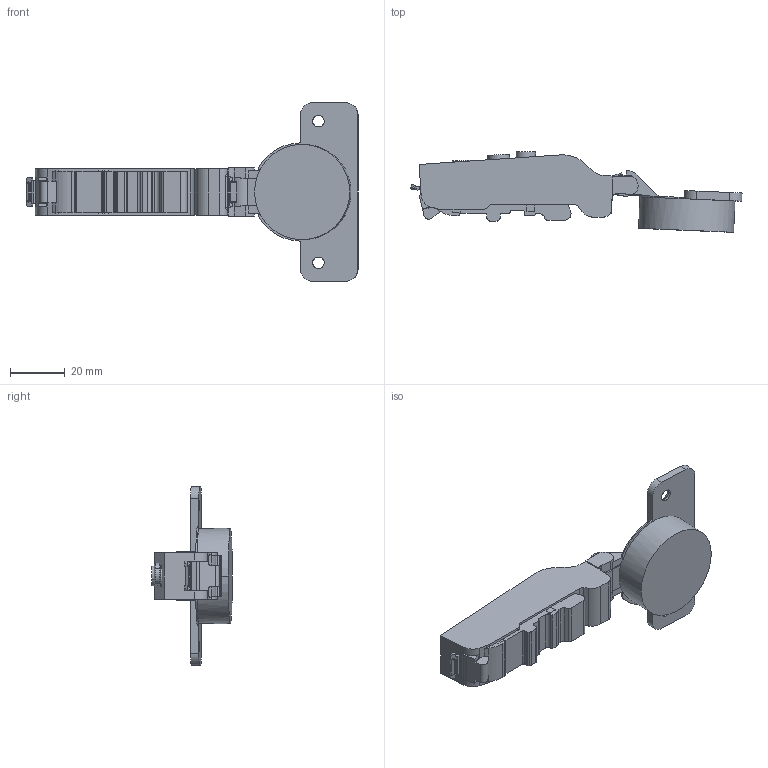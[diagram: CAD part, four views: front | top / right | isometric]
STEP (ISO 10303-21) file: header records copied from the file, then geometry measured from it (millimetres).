
FILE_DESCRIPTION (( 'STEP AP203' ), '1' );
FILE_NAME ('C81A816FAB DTC 3D OPEN.STEP', '2024-07-19T07:28:32', ( '微软用户' ), ( '微软中国' ), 'SwSTEP 2.0', 'SolidWorks 2021', '' );
FILE_SCHEMA (( 'CONFIG_CONTROL_DESIGN' ));
Length unit declared in the file: millimetre
Products named in the file (1): C81A816FAB DTC 3D OPEN
Bounding box: 121.78 x 29.6 x 65.6 mm (x, y, z)
Volume: 40179.7 mm3; surface area: 12267.7 mm2
Topology: 1 solids, 1 shells, 317 faces, 896 edges, 586 vertices
Faces by surface type: plane 146, cylinder 126, torus 24, bspline 17, cone 4
Entity records: 10742 total; most frequent: CARTESIAN_POINT 2457, ORIENTED_EDGE 1792, DIRECTION 1690, EDGE_CURVE 896, AXIS2_PLACEMENT_3D 587, VERTEX_POINT 586, LINE 516, VECTOR 516
